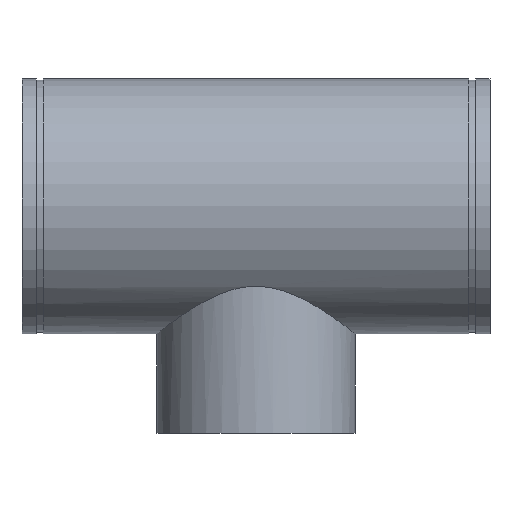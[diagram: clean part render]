
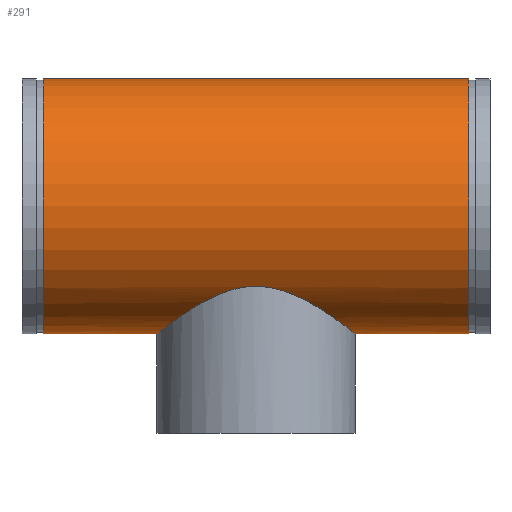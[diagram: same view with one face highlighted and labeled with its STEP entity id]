
A CAD part, top view. The second image highlights one B-rep face of the part: STEP entity #291.
In plain terms, the highlighted cylindrical face has radius 228.6 mm (diameter 457.2 mm), a full revolution.
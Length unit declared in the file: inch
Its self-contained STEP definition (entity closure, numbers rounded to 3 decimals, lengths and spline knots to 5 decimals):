
#45=B_SPLINE_CURVE_WITH_KNOTS('',3,(#511,#512,#513,#514,#515,#516,#517,
#518,#519,#520,#521,#522,#523,#524,#525,#526,#527,#528,#529,#530,#531,#532,
#533,#534,#535,#536,#537,#538,#539,#540,#541,#542,#543,#544,#545,#546,#547,
#548,#549,#550,#551,#552,#553,#554,#555,#556,#557,#558,#559,#560,#561,#562,
#563,#564,#565,#566,#567,#568,#569,#570,#571,#572,#573,#574,#575,#576,#577,
#578),.UNSPECIFIED.,.F.,.F.,(4,2,2,2,2,2,2,2,2,2,2,2,2,2,2,2,2,2,2,2,2,
2,2,2,2,2,2,2,2,2,2,2,2,4),(0.,1.80754,3.61507,7.23014,
10.84522,14.46029,17.98096,21.50163,23.26197,
25.0223,26.78264,28.54297,30.30331,32.06364,
33.82398,35.58432,39.10499,42.62566,46.24073,
49.8558,53.47087,55.27841,57.08595,58.89348,
60.70102,64.31609,67.93116,71.54623,75.0669,
78.58758,80.34791,82.10825,83.86858,85.62892),
 .UNSPECIFIED.);
#46=B_SPLINE_CURVE_WITH_KNOTS('',3,(#579,#580,#581,#582,#583,#584,#585,
#586,#587,#588,#589,#590,#591,#592,#593,#594,#595,#596,#597,#598,#599,#600,
#601,#602),.UNSPECIFIED.,.F.,.F.,(4,2,2,2,2,2,2,2,2,2,2,4),(85.62892,
87.38925,89.14959,90.90992,92.67026,96.19093,
99.7116,103.32667,106.94175,110.55682,112.36435,
114.17189),.UNSPECIFIED.);
#51=LINE('',#508,#59);
#59=VECTOR('',#410,9.);
#67=CYLINDRICAL_SURFACE('',#338,9.);
#77=FACE_BOUND('',#108,.T.);
#88=FACE_OUTER_BOUND('',#107,.T.);
#107=EDGE_LOOP('',(#221,#222,#223,#224));
#108=EDGE_LOOP('',(#225,#226));
#121=CIRCLE('',#321,9.);
#132=CIRCLE('',#337,9.);
#141=VERTEX_POINT('',#476);
#152=VERTEX_POINT('',#505);
#153=VERTEX_POINT('',#509);
#154=VERTEX_POINT('',#510);
#165=EDGE_CURVE('',#141,#141,#121,.T.);
#178=EDGE_CURVE('',#152,#152,#132,.T.);
#179=EDGE_CURVE('',#152,#141,#51,.T.);
#180=EDGE_CURVE('',#153,#154,#45,.T.);
#181=EDGE_CURVE('',#154,#153,#46,.T.);
#221=ORIENTED_EDGE('',*,*,#178,.T.);
#222=ORIENTED_EDGE('',*,*,#179,.T.);
#223=ORIENTED_EDGE('',*,*,#165,.T.);
#224=ORIENTED_EDGE('',*,*,#179,.F.);
#225=ORIENTED_EDGE('',*,*,#180,.F.);
#226=ORIENTED_EDGE('',*,*,#181,.F.);
#291=ADVANCED_FACE('',(#88,#77),#67,.T.);
#321=AXIS2_PLACEMENT_3D('',#477,#372,#373);
#337=AXIS2_PLACEMENT_3D('',#506,#406,#407);
#338=AXIS2_PLACEMENT_3D('',#507,#408,#409);
#372=DIRECTION('center_axis',(-1.,0.,0.));
#373=DIRECTION('ref_axis',(0.,-1.,0.));
#406=DIRECTION('center_axis',(1.,0.,0.));
#407=DIRECTION('ref_axis',(0.,-1.,0.));
#408=DIRECTION('center_axis',(-1.,0.,0.));
#409=DIRECTION('ref_axis',(0.,-1.,0.));
#410=DIRECTION('',(1.,0.,0.));
#476=CARTESIAN_POINT('',(15.,9.,0.));
#477=CARTESIAN_POINT('Origin',(15.,0.,0.));
#505=CARTESIAN_POINT('',(-15.,9.,0.));
#506=CARTESIAN_POINT('Origin',(-15.,0.,0.));
#507=CARTESIAN_POINT('Origin',(16.5,0.,0.));
#508=CARTESIAN_POINT('',(16.5,9.,0.));
#509=CARTESIAN_POINT('',(0.,-5.65685,-7.));
#510=CARTESIAN_POINT('',(-7.,-9.,0.));
#511=CARTESIAN_POINT('Ctrl Pts',(0.,-5.65685,
-7.));
#512=CARTESIAN_POINT('Ctrl Pts',(0.23721,-5.65685,-7.));
#513=CARTESIAN_POINT('Ctrl Pts',(0.47419,-5.6719,-6.98792));
#514=CARTESIAN_POINT('Ctrl Pts',(0.94434,-5.73039,-6.94003));
#515=CARTESIAN_POINT('Ctrl Pts',(1.17752,-5.7738,-6.90424));
#516=CARTESIAN_POINT('Ctrl Pts',(1.86689,-5.94023,-6.76275));
#517=CARTESIAN_POINT('Ctrl Pts',(2.31303,-6.09958,-6.6228));
#518=CARTESIAN_POINT('Ctrl Pts',(3.15985,-6.46834,-6.26314));
#519=CARTESIAN_POINT('Ctrl Pts',(3.56127,-6.67755,-6.04309));
#520=CARTESIAN_POINT('Ctrl Pts',(4.3042,-7.10163,-5.53855));
#521=CARTESIAN_POINT('Ctrl Pts',(4.64563,-7.31639,-5.25386));
#522=CARTESIAN_POINT('Ctrl Pts',(5.24592,-7.71168,-4.65358));
#523=CARTESIAN_POINT('Ctrl Pts',(5.52875,-7.90795,-4.3168));
#524=CARTESIAN_POINT('Ctrl Pts',(6.03527,-8.27001,-3.57455));
#525=CARTESIAN_POINT('Ctrl Pts',(6.25896,-8.43564,-3.16902));
#526=CARTESIAN_POINT('Ctrl Pts',(6.53265,-8.64129,-2.52562));
#527=CARTESIAN_POINT('Ctrl Pts',(6.61376,-8.70286,-2.30512));
#528=CARTESIAN_POINT('Ctrl Pts',(6.75366,-8.80965,-1.85566));
#529=CARTESIAN_POINT('Ctrl Pts',(6.81245,-8.85486,-1.6267));
#530=CARTESIAN_POINT('Ctrl Pts',(6.9065,-8.92742,-1.16443));
#531=CARTESIAN_POINT('Ctrl Pts',(6.94177,-8.95477,-0.93107));
#532=CARTESIAN_POINT('Ctrl Pts',(6.98852,-8.99106,-0.46436));
#533=CARTESIAN_POINT('Ctrl Pts',(7.,-9.,-0.23102));
#534=CARTESIAN_POINT('Ctrl Pts',(7.,-9.,0.23102));
#535=CARTESIAN_POINT('Ctrl Pts',(6.98852,-8.99106,0.46436));
#536=CARTESIAN_POINT('Ctrl Pts',(6.94177,-8.95477,0.93107));
#537=CARTESIAN_POINT('Ctrl Pts',(6.9065,-8.92742,1.16443));
#538=CARTESIAN_POINT('Ctrl Pts',(6.81245,-8.85486,1.6267));
#539=CARTESIAN_POINT('Ctrl Pts',(6.75366,-8.80965,1.85566));
#540=CARTESIAN_POINT('Ctrl Pts',(6.61376,-8.70286,2.30512));
#541=CARTESIAN_POINT('Ctrl Pts',(6.53265,-8.64129,2.52562));
#542=CARTESIAN_POINT('Ctrl Pts',(6.25896,-8.43564,3.16902));
#543=CARTESIAN_POINT('Ctrl Pts',(6.03527,-8.27001,3.57455));
#544=CARTESIAN_POINT('Ctrl Pts',(5.52875,-7.90795,4.3168));
#545=CARTESIAN_POINT('Ctrl Pts',(5.24592,-7.71168,4.65358));
#546=CARTESIAN_POINT('Ctrl Pts',(4.64563,-7.31639,5.25386));
#547=CARTESIAN_POINT('Ctrl Pts',(4.3042,-7.10163,5.53855));
#548=CARTESIAN_POINT('Ctrl Pts',(3.56127,-6.67755,6.04309));
#549=CARTESIAN_POINT('Ctrl Pts',(3.15985,-6.46834,6.26314));
#550=CARTESIAN_POINT('Ctrl Pts',(2.31303,-6.09958,6.6228));
#551=CARTESIAN_POINT('Ctrl Pts',(1.86689,-5.94023,6.76275));
#552=CARTESIAN_POINT('Ctrl Pts',(1.17752,-5.7738,6.90424));
#553=CARTESIAN_POINT('Ctrl Pts',(0.94434,-5.73039,6.94003));
#554=CARTESIAN_POINT('Ctrl Pts',(0.47419,-5.6719,6.98792));
#555=CARTESIAN_POINT('Ctrl Pts',(0.23721,-5.65685,7.));
#556=CARTESIAN_POINT('Ctrl Pts',(-0.23721,-5.65685,7.));
#557=CARTESIAN_POINT('Ctrl Pts',(-0.47419,-5.6719,6.98792));
#558=CARTESIAN_POINT('Ctrl Pts',(-0.94434,-5.73039,6.94003));
#559=CARTESIAN_POINT('Ctrl Pts',(-1.17752,-5.7738,6.90424));
#560=CARTESIAN_POINT('Ctrl Pts',(-1.86689,-5.94023,6.76275));
#561=CARTESIAN_POINT('Ctrl Pts',(-2.31303,-6.09958,6.6228));
#562=CARTESIAN_POINT('Ctrl Pts',(-3.15985,-6.46834,6.26314));
#563=CARTESIAN_POINT('Ctrl Pts',(-3.56127,-6.67755,6.04309));
#564=CARTESIAN_POINT('Ctrl Pts',(-4.3042,-7.10163,5.53855));
#565=CARTESIAN_POINT('Ctrl Pts',(-4.64563,-7.31639,5.25386));
#566=CARTESIAN_POINT('Ctrl Pts',(-5.24592,-7.71168,4.65358));
#567=CARTESIAN_POINT('Ctrl Pts',(-5.52875,-7.90795,4.3168));
#568=CARTESIAN_POINT('Ctrl Pts',(-6.03527,-8.27001,3.57455));
#569=CARTESIAN_POINT('Ctrl Pts',(-6.25896,-8.43564,3.16902));
#570=CARTESIAN_POINT('Ctrl Pts',(-6.53265,-8.64129,2.52562));
#571=CARTESIAN_POINT('Ctrl Pts',(-6.61376,-8.70286,2.30512));
#572=CARTESIAN_POINT('Ctrl Pts',(-6.75366,-8.80965,1.85566));
#573=CARTESIAN_POINT('Ctrl Pts',(-6.81245,-8.85486,1.6267));
#574=CARTESIAN_POINT('Ctrl Pts',(-6.9065,-8.92742,1.16443));
#575=CARTESIAN_POINT('Ctrl Pts',(-6.94177,-8.95477,0.93107));
#576=CARTESIAN_POINT('Ctrl Pts',(-6.98852,-8.99106,0.46436));
#577=CARTESIAN_POINT('Ctrl Pts',(-7.,-9.,0.23102));
#578=CARTESIAN_POINT('Ctrl Pts',(-7.,-9.,0.));
#579=CARTESIAN_POINT('Ctrl Pts',(-7.,-9.,0.));
#580=CARTESIAN_POINT('Ctrl Pts',(-7.,-9.,-0.23102));
#581=CARTESIAN_POINT('Ctrl Pts',(-6.98852,-8.99106,-0.46436));
#582=CARTESIAN_POINT('Ctrl Pts',(-6.94177,-8.95477,-0.93107));
#583=CARTESIAN_POINT('Ctrl Pts',(-6.9065,-8.92742,-1.16443));
#584=CARTESIAN_POINT('Ctrl Pts',(-6.81245,-8.85486,-1.6267));
#585=CARTESIAN_POINT('Ctrl Pts',(-6.75366,-8.80965,-1.85566));
#586=CARTESIAN_POINT('Ctrl Pts',(-6.61376,-8.70286,-2.30512));
#587=CARTESIAN_POINT('Ctrl Pts',(-6.53265,-8.64129,-2.52562));
#588=CARTESIAN_POINT('Ctrl Pts',(-6.25896,-8.43564,-3.16902));
#589=CARTESIAN_POINT('Ctrl Pts',(-6.03527,-8.27001,-3.57455));
#590=CARTESIAN_POINT('Ctrl Pts',(-5.52875,-7.90795,-4.3168));
#591=CARTESIAN_POINT('Ctrl Pts',(-5.24592,-7.71168,-4.65358));
#592=CARTESIAN_POINT('Ctrl Pts',(-4.64563,-7.31639,-5.25386));
#593=CARTESIAN_POINT('Ctrl Pts',(-4.3042,-7.10163,-5.53855));
#594=CARTESIAN_POINT('Ctrl Pts',(-3.56127,-6.67755,-6.04309));
#595=CARTESIAN_POINT('Ctrl Pts',(-3.15985,-6.46834,-6.26314));
#596=CARTESIAN_POINT('Ctrl Pts',(-2.31303,-6.09958,-6.6228));
#597=CARTESIAN_POINT('Ctrl Pts',(-1.86689,-5.94023,-6.76275));
#598=CARTESIAN_POINT('Ctrl Pts',(-1.17752,-5.7738,-6.90424));
#599=CARTESIAN_POINT('Ctrl Pts',(-0.94434,-5.73039,-6.94003));
#600=CARTESIAN_POINT('Ctrl Pts',(-0.47419,-5.6719,-6.98792));
#601=CARTESIAN_POINT('Ctrl Pts',(-0.23721,-5.65685,-7.));
#602=CARTESIAN_POINT('Ctrl Pts',(0.,-5.65685,-7.));
